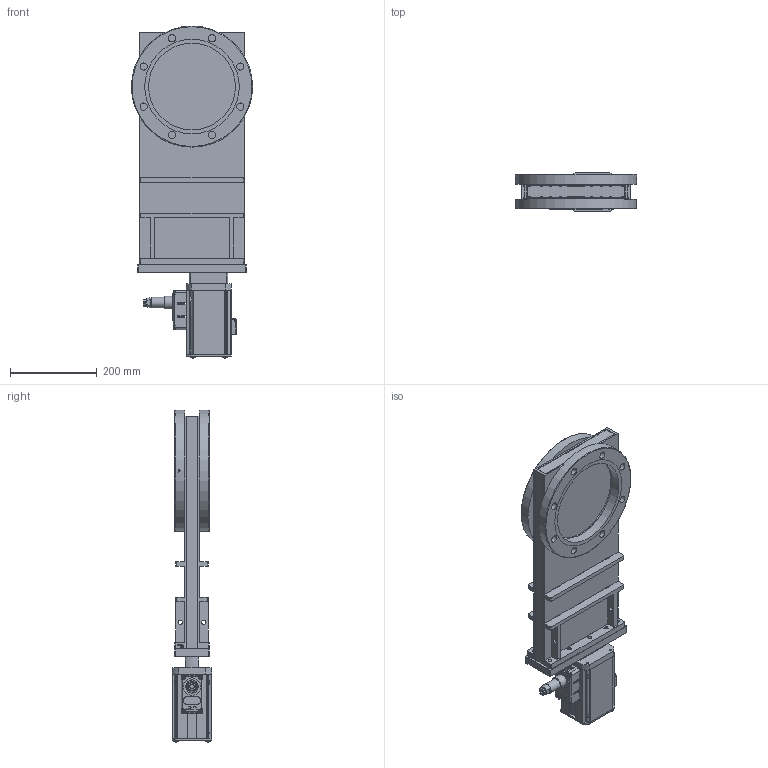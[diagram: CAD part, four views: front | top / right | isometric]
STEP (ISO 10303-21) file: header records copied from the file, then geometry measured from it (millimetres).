
FILE_DESCRIPTION(/* description */ (''),/* implementation_level */ '2;1');
FILE_NAME(/* name */ '1611645440_203.stp',/* time_stamp */ '2017-07-11T15:54:16+02:00',/* author */ (''),/* organization */ (''),/* preprocessor_version */ 'ST-DEVELOPER v15',/* originating_system */ 'SIEMENS PLM Software NX 9.0',/* authorisation */ '');
FILE_SCHEMA (('AP203_CONFIGURATION_CONTROLLED_3D_DESIGN_OF_MECHANICAL_PARTS_AND_ASSEMBLIES_MIM_LF { 1 0 10303 403 2 1 2}'));
Length unit declared in the file: millimetre
Products named in the file (43): n-6197-034.1; n-7100-007.2; 395614; 94220-01.1; 94224-01.2; 834044_28272ID; 834044_36037ID; 834044_36036ID; 834044_36035ID; 834046_36034ID; 834046_36033ID; 834046_36032ID; 834046_28287ID; 834014_28285ID; 834014_28284ID; 834006_28282ID; 834001_28280ID; 834001_28279ID; 833986_28277ID; 833986_28274ID; n-6024-526; N-7100-014_2.1; 94828-01.1; N-7100-012_3.1; N-6024-571.1; 85949-01.1; 67114-01.1; 52691-01.1_28276ID; 52691-01.1_36038ID; 65313-01.1; 570870; 74628-01.3; n-6024-548.1; 70973-01.1; n-8504-002; 69130-01.2; 778871; 94827-r1.1; 395615; 94237-r1.2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
Assembly tree (62 placements, depth 4):
  901165
    52693-r1.2
      834047
        833986_28274ID
        833986_28277ID
        834001_28279ID
        834001_28280ID
        834006_28282ID
        834014_28284ID
        834014_28285ID
        834046_28287ID
        834046_36032ID
        834046_36033ID
        834046_36034ID
        834044_36035ID
        834044_36036ID
        834044_36037ID
        834044_28272ID
      52691-01.1_36038ID
      52691-01.1_28276ID
    94237-r1.2
      67114-01.1  x4
      85949-01.1
      N-6024-571.1  x4
      395615
        94224-01.2
        94220-01.1
        395614
        n-7100-007.2  x2
        n-6197-034.1
    778871  x10
    69130-01.2
    n-8504-002
    70973-01.1
    n-6024-548.1  x4
    74628-01.3
    570870
    65313-01.1
    94827-r1.1
      N-7100-012_3.1
      94828-01.1
      N-7100-014_2.1
      n-6024-526  x2
Bounding box: 279.4 x 90 x 765.55 mm (x, y, z)
Volume: 4653140.2 mm3; surface area: 1155409.8 mm2
Topology: 64 solids, 76 shells, 2536 faces, 6429 edges, 4229 vertices
Faces by surface type: plane 1622, cylinder 525, extrusion 195, torus 107, cone 69, sphere 10, bspline 8
Full cylindrical faces by diameter (mm): 0.7 x1, 0.725 x1, 1.5 x6, 1.66 x7, 2 x3, 2.125 x1, 2.5 x10, 2.65 x1, 3 x6, 3.3 x6, 4 x8, 4.05 x4, 4.2 x2, 4.35 x2, 4.4 x4, 4.45 x4, 4.5 x2, 4.625 x2, 5 x10, 5.8 x1, 5.9 x1, 6 x15, 6.6 x4, 6.85 x4, 7.05 x3, 7.5 x4, 7.982 x4, 8 x4, 8.36 x10, 8.4 x10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
Entity records: 77873 total; most frequent: CARTESIAN_POINT 20482, ORIENTED_EDGE 10418, DIRECTION 9453, EDGE_CURVE 5209, VERTEX_POINT 3595, VECTOR 3273, AXIS2_PLACEMENT_3D 3090, LINE 3078
